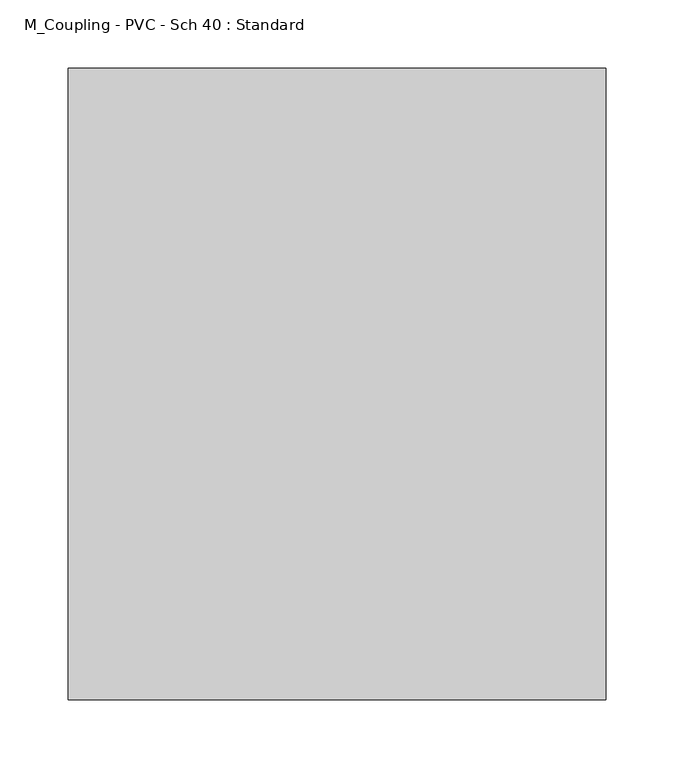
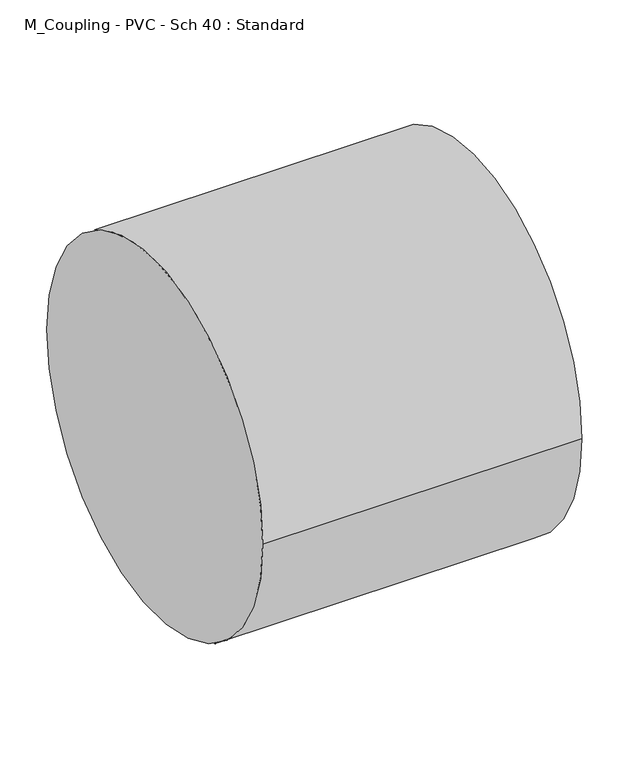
"""IFC4 building model written with IfcOpenShell, lengths in millimetres: pipe fitting geometry, M_Coupling - PVC - Sch 40 : Standard."""

from ifc_helpers import new_model, si_unit, point, frame, origin, origin_2d, place, context, project, spatial, circle_curve, trimmed, segment, composite_curve, outline, extrude, source, transform, mapped, element, save


def m_coupling_pvc_sch_40_standard_509bd38a(model_context):
    return source(origin(), model_context, "Body", "SweptSolid", [
        extrude(outline(composite_curve([segment(trimmed(circle_curve(origin_2d(), 231.6058594), [point((-231.6058594, 0.0))], [point((231.6058594, 0.0))], False, "CARTESIAN"), True, "CONTINUOUS"), segment(trimmed(circle_curve(origin_2d(), 231.6058594), [point((231.6058594, 0.0))], [point((-231.6058594, 0.0))], False, "CARTESIAN"), True, "CONTINUOUS")], self_intersect=False)), frame((-197.3109375, 0.0, 0.0), z_axis=(1.0, 0.0, 0.0), x_axis=(0.0, 1.0, 0.0)), (0.0, 0.0, 1.0), 394.621875),
    ])


if __name__ == "__main__":
    model = new_model("IFC4")
    model_context = context("Model", 3, world=origin())
    ifc_project = project(units=[si_unit("LENGTHUNIT", "METRE", prefix="MILLI")], contexts=[model_context])
    site = spatial("IfcSite", under=ifc_project)
    building = spatial("IfcBuilding", under=site)
    placement = place(None, origin())
    m_coupling_pvc_sch_40_standard_shape = m_coupling_pvc_sch_40_standard_509bd38a(model_context)
    element("IfcPipeFitting", 1, ObjectType="M_Coupling - PVC - Sch 40 : Standard", at=placement, inside=building, context=model_context, shape_type="MappedRepresentation", body=[
        mapped(m_coupling_pvc_sch_40_standard_shape, transform((0.0, 0.0, 0.0), x_axis=(1.0, 0.0, 0.0), y_axis=(0.0, 1.0, 0.0), z_axis=(0.0, 0.0, 1.0))),
    ])
    save(model, "model.ifc")
